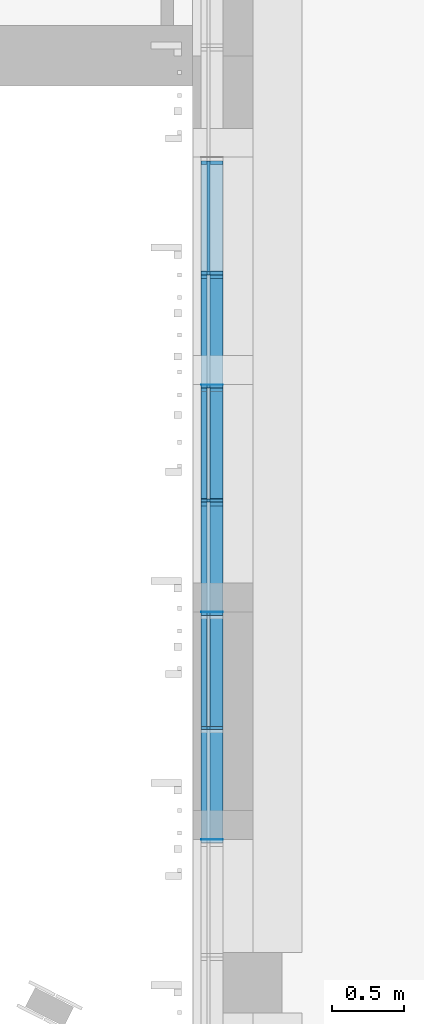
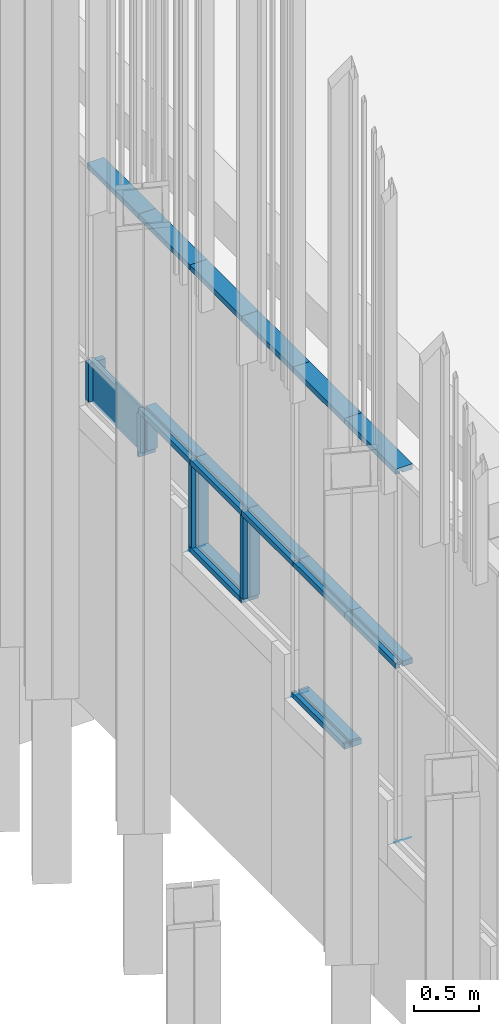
# One storey, part 60 of 390: 26 discrete accessories, 1 element without a shape of its own.
"""IFC2X3 building model written with IfcOpenShell, lengths in millimetres."""

from ifc_helpers import new_model, entity, si_unit, converted_unit, derived_unit, money_unit, direction, frame, origin_with_axes, place, context, subcontext, project, spatial, polyline, outline, extrude, clip, halfspace, material, material_list, type_object, element, aggregate, save


model = new_model("IFC2X3")

# Units and contexts
model_context = context("Model", 3, precision=1e-05, world=origin_with_axes(), true_north=direction((0.0, 1.0)))
body_context = subcontext(model_context, "Body", "Model", "MODEL_VIEW")
ifc_project = project(units=[si_unit("LENGTHUNIT", "METRE", prefix="MILLI"), si_unit("AREAUNIT", "SQUARE_METRE"), si_unit("VOLUMEUNIT", "CUBIC_METRE"), converted_unit("PLANEANGLEUNIT", "DEGREE", entity("IfcPlaneAngleMeasure", 0.0174532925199), si_unit("PLANEANGLEUNIT", "RADIAN"), dimensions=[0, 0, 0, 0, 0, 0, 0]), si_unit("SOLIDANGLEUNIT", "STERADIAN"), money_unit("EUR"), converted_unit("TIMEUNIT", "Year", entity("IfcTimeMeasure", 31556926.0), si_unit("TIMEUNIT", "SECOND"), dimensions=[0, 0, 1, 0, 0, 0, 0]), si_unit("MASSUNIT", "GRAM", prefix="KILO"), si_unit("THERMODYNAMICTEMPERATUREUNIT", "DEGREE_CELSIUS"), si_unit("LUMINOUSINTENSITYUNIT", "LUMEN"), si_unit("ENERGYUNIT", "JOULE", prefix="MEGA"), derived_unit("THERMALCONDUCTANCEUNIT", [(si_unit("POWERUNIT", "WATT"), 1), (si_unit("LENGTHUNIT", "METRE"), -1), (si_unit("THERMODYNAMICTEMPERATUREUNIT", "KELVIN"), -1)]), derived_unit("SPECIFICHEATCAPACITYUNIT", [(si_unit("ENERGYUNIT", "JOULE"), 1), (si_unit("MASSUNIT", "GRAM", prefix="KILO"), -1), (si_unit("THERMODYNAMICTEMPERATUREUNIT", "KELVIN"), -1)]), derived_unit("MASSDENSITYUNIT", [(si_unit("MASSUNIT", "GRAM", prefix="KILO"), 1), (si_unit("VOLUMEUNIT", "CUBIC_METRE"), -1)])], contexts=[model_context])

# Site, building, storey
site_placement = place(None, origin_with_axes())
site = spatial("IfcSite", under=ifc_project, at=site_placement, Name="Site", CompositionType="ELEMENT")
building_placement = place(site_placement, origin_with_axes())
building = spatial("IfcBuilding", under=site, at=building_placement, Name="Building", CompositionType="ELEMENT")
storey_placement = place(building_placement, origin_with_axes())
storey = spatial("IfcBuildingStorey", under=building, at=storey_placement, Name="1 korrus", CompositionType="ELEMENT", Elevation=0.0)

# Curtain wall, discrete accessories
curtain_wall_type = type_object("IfcCurtainWallType", Name="KLF-14", PredefinedType="NOTDEFINED")
curtain_wall_placement = place(storey_placement, frame((122599.999993, 59672.5295083, -0.000201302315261), z_axis=(0.0, 0.0, 1.0), x_axis=(1.0, 0.0, 0.0)))
curtain_wall = element("IfcCurtainWall", 1, at=curtain_wall_placement, inside=storey, type_object=curtain_wall_type, Name="Klaasfassaad")
ifc_material_1 = material(Name="Klaas")
discrete_accessory_type_1 = type_object("IfcDiscreteAccessoryType", Name="Distinct Panel 790 x 415 x 20")
discrete_accessory_1_placement = place(curtain_wall_placement, frame((3.87842646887e-07, -2278.98707772, 2324.00011705), z_axis=(0.0, 0.0, 1.0), x_axis=(1.70170488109e-10, -1.0, 0.0)))
discrete_accessory_1 = element("IfcDiscreteAccessory", 2, at=discrete_accessory_1_placement, type_object=discrete_accessory_type_1, material=ifc_material_1, Name="KLF-14 klaaspakett", context=body_context, shape_type="SweptSolid", body=[
    extrude(outline(polyline([(-469.457567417, -261.000015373), (320.542431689, -261.000015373), (320.542431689, 153.999964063), (-469.457567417, 154.000023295), (-469.457567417, -261.000015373)])), frame((0.0, -10.0, 0.0), z_axis=(0.0, 1.0, 0.0), x_axis=(1.0, 0.0, 0.0)), (0.0, 0.0, 1.0), 20.0),
])
ifc_material_2 = material(Name="Aluminium MUST")
ifc_material_list_1 = material_list([ifc_material_2, ifc_material_2])
discrete_accessory_type_2 = type_object("IfcDiscreteAccessoryType", Name="50 x 150")
discrete_accessory_2_placement = place(curtain_wall_placement, frame((7.10443259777e-07, -4174.5295103, 1740.00034017), z_axis=(0.0, 0.0, 1.0), x_axis=(1.70187388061e-10, -1.0, 0.0)))
discrete_accessory_2 = element("IfcDiscreteAccessory", 3, at=discrete_accessory_2_placement, type_object=discrete_accessory_type_2, material=ifc_material_list_1, Name="KLF-14 profiil", context=body_context, shape_type="SweptSolid", body=[
    extrude(outline(polyline([(100.000000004, -24.999999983), (99.9999999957, 25.000000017), (9.99999999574, 25.0000000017), (10.0000000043, -24.9999999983), (100.000000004, -24.999999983)])), frame((0.0, 0.0, 50.0000001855), z_axis=(0.0, 0.0, 1.0), x_axis=(1.70187388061e-10, 1.0, 0.0)), (0.0, 0.0, 1.0), 769.999788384),
    extrude(outline(polyline([(-50.0000000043, 24.9999999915), (-49.9999999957, -25.0000000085), (-9.99999999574, -25.0000000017), (-10.0000000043, 24.9999999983), (-50.0000000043, 24.9999999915)])), frame((0.0, 0.0, 49.9999990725), z_axis=(0.0, 0.0, 1.0), x_axis=(1.70187388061e-10, 1.0, 0.0)), (0.0, 0.0, 1.0), 769.999789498),
])
ifc_material_list_2 = material_list([ifc_material_2, ifc_material_2, ifc_material_2])
discrete_accessory_3_placement = place(curtain_wall_placement, frame((9.78474190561e-07, -5749.5295103, 4424.99986231), z_axis=(1.70186299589e-10, -1.0, 0.0), x_axis=(0.0, 0.0, -1.0)))
discrete_accessory_3 = element("IfcDiscreteAccessory", 4, at=discrete_accessory_3_placement, type_object=discrete_accessory_type_2, material=ifc_material_list_2, Name="KLF-14 profiil", context=body_context, shape_type="SweptSolid", body=[
    extrude(outline(polyline([(-9.99999986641, 25.0), (-9.99999986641, 0.0), (10.0000001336, 0.0), (10.0000001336, 25.0), (-9.99999986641, 25.0)])), frame((0.0, 0.0, -1.69109171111e-09), z_axis=(0.0, 0.0, 1.0), x_axis=(0.0, -1.0, 0.0)), (0.0, 0.0, 1.0), 785.000000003),
    extrude(outline(polyline([(-99.9999998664, 50.0), (-99.9999998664, 0.0), (-9.99999986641, 0.0), (-9.99999986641, 50.0), (-99.9999998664, 50.0)])), frame((0.0, 0.0, 1.70530256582e-09), z_axis=(0.0, 0.0, 1.0), x_axis=(0.0, -1.0, 0.0)), (0.0, 0.0, 1.0), 785.000000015),
    extrude(outline(polyline([(50.0000001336, 0.0), (50.0000001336, 50.0), (10.0000001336, 50.0), (10.0000001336, 0.0), (50.0000001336, 0.0)])), frame((0.0, 0.0, -8.49809111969e-09), z_axis=(0.0, 0.0, 1.0), x_axis=(0.0, -1.0, 0.0)), (0.0, 0.0, 1.0), 785.000000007),
])
discrete_accessory_4_placement = place(curtain_wall_placement, frame((5.75994363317e-07, -3384.5295103, 1740.00011796), z_axis=(0.0, 0.0, 1.0), x_axis=(1.70187388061e-10, -1.0, 0.0)))
discrete_accessory_4 = element("IfcDiscreteAccessory", 5, at=discrete_accessory_4_placement, type_object=discrete_accessory_type_2, material=ifc_material_list_1, Name="KLF-14 profiil", context=body_context, shape_type="SweptSolid", body=[
    extrude(outline(polyline([(100.000000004, -24.999999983), (99.9999999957, 25.000000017), (9.99999999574, 25.0000000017), (10.0000000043, -24.9999999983), (100.000000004, -24.999999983)])), frame((0.0, 0.0, 50.0), z_axis=(0.0, 0.0, 1.0), x_axis=(1.70187388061e-10, 1.0, 0.0)), (0.0, 0.0, 1.0), 770.000010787),
    extrude(outline(polyline([(-50.0000000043, 24.9999999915), (-49.9999999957, -25.0000000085), (-9.99999999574, -25.0000000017), (-10.0000000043, 24.9999999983), (-50.0000000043, 24.9999999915)])), frame((0.0, 0.0, 50.0), z_axis=(0.0, 0.0, 1.0), x_axis=(1.70187388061e-10, 1.0, 0.0)), (0.0, 0.0, 1.0), 770.000010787),
])
discrete_accessory_5_placement = place(curtain_wall_placement, frame((4.42398118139e-07, -2599.5295103, 2150.00014739), z_axis=(0.0, 0.0, 1.0), x_axis=(1.70178393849e-10, -1.0, 0.0)))
discrete_accessory_5 = element("IfcDiscreteAccessory", 6, at=discrete_accessory_5_placement, type_object=discrete_accessory_type_2, material=ifc_material_list_1, Name="KLF-14 profiil", context=body_context, shape_type="SweptSolid", body=[
    extrude(outline(polyline([(100.000000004, -24.999999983), (99.9999999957, 25.000000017), (9.99999999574, 25.0000000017), (10.0000000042, -24.9999999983), (100.000000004, -24.999999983)])), frame((0.0, 0.0, 50.0000002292), z_axis=(0.0, 0.0, 1.0), x_axis=(1.70178393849e-10, 1.0, 0.0)), (0.0, 0.0, 1.0), 359.99998112),
    extrude(outline(polyline([(-50.0000000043, 24.9999999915), (-49.9999999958, -25.0000000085), (-9.99999999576, -25.0000000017), (-10.0000000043, 24.9999999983), (-50.0000000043, 24.9999999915)])), frame((0.0, 0.0, 49.9999988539), z_axis=(0.0, 0.0, 1.0), x_axis=(1.70178393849e-10, 1.0, 0.0)), (0.0, 0.0, 1.0), 359.999982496),
])
discrete_accessory_6_placement = place(curtain_wall_placement, frame((3.07963432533e-07, -1809.5295103, 2150.00009018), z_axis=(0.0, 0.0, 1.0), x_axis=(1.70178393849e-10, -1.0, 0.0)))
discrete_accessory_6 = element("IfcDiscreteAccessory", 7, at=discrete_accessory_6_placement, type_object=discrete_accessory_type_2, material=ifc_material_list_1, Name="KLF-14 profiil", context=body_context, shape_type="SweptSolid", body=[
    extrude(outline(polyline([(100.000000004, -24.999999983), (99.9999999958, 25.000000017), (9.99999999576, 25.0000000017), (10.0000000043, -24.9999999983), (100.000000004, -24.999999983)])), frame((0.0, 0.0, 50.0), z_axis=(0.0, 0.0, 1.0), x_axis=(1.70178393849e-10, 1.0, 0.0)), (0.0, 0.0, 1.0), 360.000038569),
    extrude(outline(polyline([(-50.0000000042, 24.9999999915), (-49.9999999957, -25.0000000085), (-9.99999999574, -25.0000000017), (-10.0000000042, 24.9999999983), (-50.0000000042, 24.9999999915)])), frame((0.0, 0.0, 50.0), z_axis=(0.0, 0.0, 1.0), x_axis=(1.70178393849e-10, 1.0, 0.0)), (0.0, 0.0, 1.0), 360.000038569),
])
discrete_accessory_7_placement = place(curtain_wall_placement, frame((8.44039504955e-07, -4959.5295103, 4424.99986231), z_axis=(1.70170488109e-10, -1.0, 0.0), x_axis=(0.0, 0.0, -1.0)))
discrete_accessory_7 = element("IfcDiscreteAccessory", 8, at=discrete_accessory_7_placement, type_object=discrete_accessory_type_2, material=ifc_material_list_2, Name="KLF-14 profiil", context=body_context, shape_type="SweptSolid", body=[
    extrude(outline(polyline([(-9.99999986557, 25.0), (-9.99999986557, 0.0), (10.0000001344, 0.0), (10.0000001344, 25.0), (-9.99999986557, 25.0)])), frame((0.0, 0.0, -1.69819713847e-09), z_axis=(0.0, 0.0, 1.0), x_axis=(0.0, -1.0, 0.0)), (0.0, 0.0, 1.0), 790.000000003),
    extrude(outline(polyline([(-99.9999998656, 50.0), (-99.9999998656, 0.0), (-9.99999986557, 0.0), (-9.99999986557, 50.0), (-99.9999998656, 50.0)])), frame((0.0, 0.0, 1.71240799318e-09), z_axis=(0.0, 0.0, 1.0), x_axis=(0.0, -1.0, 0.0)), (0.0, 0.0, 1.0), 790.000000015),
    extrude(outline(polyline([(50.0000001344, 0.0), (50.0000001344, 50.0), (10.0000001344, 50.0), (10.0000001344, 0.0), (50.0000001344, 0.0)])), frame((0.0, 0.0, -8.50519654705e-09), z_axis=(0.0, 0.0, 1.0), x_axis=(0.0, -1.0, 0.0)), (0.0, 0.0, 1.0), 790.000000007),
])
discrete_accessory_8_placement = place(curtain_wall_placement, frame((3.07963432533e-07, -1809.5295103, 4424.99986231), z_axis=(1.70170488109e-10, -1.0, 0.0), x_axis=(0.0, 0.0, -1.0)))
discrete_accessory_8 = element("IfcDiscreteAccessory", 9, at=discrete_accessory_8_placement, type_object=discrete_accessory_type_2, material=ifc_material_list_2, Name="KLF-14 profiil", context=body_context, shape_type="SweptSolid", body=[
    extrude(outline(polyline([(-9.99999986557, 25.0), (-9.99999986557, 0.0), (10.0000001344, 0.0), (10.0000001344, 25.0), (-9.99999986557, 25.0)])), frame((0.0, 0.0, -1.69819713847e-09), z_axis=(0.0, 0.0, 1.0), x_axis=(0.0, -1.0, 0.0)), (0.0, 0.0, 1.0), 790.000000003),
    extrude(outline(polyline([(-99.9999998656, 50.0), (-99.9999998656, 0.0), (-9.99999986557, 0.0), (-9.99999986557, 50.0), (-99.9999998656, 50.0)])), frame((0.0, 0.0, 1.71240799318e-09), z_axis=(0.0, 0.0, 1.0), x_axis=(0.0, -1.0, 0.0)), (0.0, 0.0, 1.0), 790.000000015),
    extrude(outline(polyline([(50.0000001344, 0.0), (50.0000001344, 50.0), (10.0000001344, 50.0), (10.0000001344, 0.0), (50.0000001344, 0.0)])), frame((0.0, 0.0, -8.50519654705e-09), z_axis=(0.0, 0.0, 1.0), x_axis=(0.0, -1.0, 0.0)), (0.0, 0.0, 1.0), 790.000000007),
])
discrete_accessory_9_placement = place(curtain_wall_placement, frame((4.42398118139e-07, -2599.5295103, 4424.99986231), z_axis=(1.70186299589e-10, -1.0, 0.0), x_axis=(0.0, 0.0, -1.0)))
discrete_accessory_9 = element("IfcDiscreteAccessory", 10, at=discrete_accessory_9_placement, type_object=discrete_accessory_type_2, material=ifc_material_list_2, Name="KLF-14 profiil", context=body_context, shape_type="SweptSolid", body=[
    extrude(outline(polyline([(-9.99999986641, 25.0), (-9.99999986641, 0.0), (10.0000001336, 0.0), (10.0000001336, 25.0), (-9.99999986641, 25.0)])), frame((0.0, 0.0, -1.69109171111e-09), z_axis=(0.0, 0.0, 1.0), x_axis=(0.0, -1.0, 0.0)), (0.0, 0.0, 1.0), 785.000000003),
    extrude(outline(polyline([(-99.9999998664, 50.0), (-99.9999998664, 0.0), (-9.99999986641, 0.0), (-9.99999986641, 50.0), (-99.9999998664, 50.0)])), frame((0.0, 0.0, 1.70530256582e-09), z_axis=(0.0, 0.0, 1.0), x_axis=(0.0, -1.0, 0.0)), (0.0, 0.0, 1.0), 785.000000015),
    extrude(outline(polyline([(50.0000001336, 0.0), (50.0000001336, 50.0), (10.0000001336, 50.0), (10.0000001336, 0.0), (50.0000001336, 0.0)])), frame((0.0, 0.0, -8.49809111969e-09), z_axis=(0.0, 0.0, 1.0), x_axis=(0.0, -1.0, 0.0)), (0.0, 0.0, 1.0), 785.000000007),
])
discrete_accessory_10_placement = place(curtain_wall_placement, frame((9.74608838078e-07, -5726.8173106, 1330.00014574), z_axis=(-1.70169958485e-10, 1.0, 0.0), x_axis=(0.0, 0.0, 1.0)))
discrete_accessory_10 = element("IfcDiscreteAccessory", 11, at=discrete_accessory_10_placement, type_object=discrete_accessory_type_2, material=ifc_material_list_2, Name="KLF-14 profiil", context=body_context, shape_type="SweptSolid", body=[
    extrude(outline(polyline([(10.0000001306, -25.0), (10.0000001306, 0.0), (-9.99999986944, 0.0), (-9.99999986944, -25.0), (10.0000001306, -25.0)])), frame((0.0, 0.0, -0.000151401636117), z_axis=(0.0, 0.0, 1.0), x_axis=(0.0, 1.0, 0.0)), (0.0, 0.0, 1.0), 767.287951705),
    extrude(outline(polyline([(100.000000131, -50.0), (100.000000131, 0.0), (10.0000001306, 0.0), (10.0000001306, -50.0), (100.000000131, -50.0)])), frame((0.0, 0.0, -0.000151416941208), z_axis=(0.0, 0.0, 1.0), x_axis=(0.0, 1.0, 0.0)), (0.0, 0.0, 1.0), 767.287951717),
    extrude(outline(polyline([(-49.9999998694, 0.0), (-49.9999998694, -50.0), (-9.99999986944, -50.0), (-9.99999986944, 0.0), (-49.9999998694, 0.0)])), frame((0.0, 0.0, -0.000151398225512), z_axis=(0.0, 0.0, 1.0), x_axis=(0.0, 1.0, 0.0)), (0.0, 0.0, 1.0), 767.287951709),
])
discrete_accessory_11_placement = place(curtain_wall_placement, frame((7.10443259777e-07, -4174.5295103, 4424.99986231), z_axis=(1.70186299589e-10, -1.0, 0.0), x_axis=(0.0, 0.0, -1.0)))
discrete_accessory_11 = element("IfcDiscreteAccessory", 12, at=discrete_accessory_11_placement, type_object=discrete_accessory_type_2, material=ifc_material_list_2, Name="KLF-14 profiil", context=body_context, shape_type="SweptSolid", body=[
    extrude(outline(polyline([(-9.99999986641, 25.0), (-9.99999986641, 0.0), (10.0000001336, 0.0), (10.0000001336, 25.0), (-9.99999986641, 25.0)])), frame((0.0, 0.0, -1.69109171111e-09), z_axis=(0.0, 0.0, 1.0), x_axis=(0.0, -1.0, 0.0)), (0.0, 0.0, 1.0), 785.000000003),
    extrude(outline(polyline([(-99.9999998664, 50.0), (-99.9999998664, 0.0), (-9.99999986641, 0.0), (-9.99999986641, 50.0), (-99.9999998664, 50.0)])), frame((0.0, 0.0, 1.70530256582e-09), z_axis=(0.0, 0.0, 1.0), x_axis=(0.0, -1.0, 0.0)), (0.0, 0.0, 1.0), 785.000000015),
    extrude(outline(polyline([(50.0000001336, 0.0), (50.0000001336, 50.0), (10.0000001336, 50.0), (10.0000001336, 0.0), (50.0000001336, 0.0)])), frame((0.0, 0.0, -8.49809111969e-09), z_axis=(0.0, 0.0, 1.0), x_axis=(0.0, -1.0, 0.0)), (0.0, 0.0, 1.0), 785.000000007),
])
discrete_accessory_12_placement = place(curtain_wall_placement, frame((4.42398118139e-07, -2599.5295103, 2150.00014739), z_axis=(-1.70188656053e-10, 0.999999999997, -2.51933153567e-06), x_axis=(0.0, 2.51933153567e-06, 0.999999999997)))
discrete_accessory_12 = element("IfcDiscreteAccessory", 13, at=discrete_accessory_12_placement, type_object=discrete_accessory_type_2, material=ifc_material_list_2, Name="KLF-14 profiil", context=body_context, shape_type="SweptSolid", body=[
    extrude(outline(polyline([(10.0000000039, -25.0000572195), (10.0000000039, -5.72196277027e-05), (-9.99999999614, -5.72196277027e-05), (-9.99999999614, -25.0000572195), (10.0000000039, -25.0000572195)])), frame((0.0, 0.0, -0.000126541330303), z_axis=(0.0, 0.0, 1.0), x_axis=(0.0, 1.0, 0.0)), (0.0, 0.0, 1.0), 22.7123524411),
    extrude(outline(polyline([(100.000000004, -50.0000572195), (100.000000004, -5.72196277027e-05), (10.0000000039, -5.72196277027e-05), (10.0000000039, -50.0000572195), (100.000000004, -50.0000572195)])), frame((0.0, 0.0, -0.000189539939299), z_axis=(0.0, 0.0, 1.0), x_axis=(0.0, 1.0, 0.0)), (0.0, 0.0, 1.0), 22.7124154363),
    extrude(outline(polyline([(-49.9999999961, -5.72196277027e-05), (-49.9999999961, -50.0000572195), (-9.99999999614, -50.0000572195), (-9.99999999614, -5.72196277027e-05), (-49.9999999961, -5.72196277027e-05)])), frame((0.0, 0.0, -0.000189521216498), z_axis=(0.0, 0.0, 1.0), x_axis=(0.0, 1.0, 0.0)), (0.0, 0.0, 1.0), 22.7124154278),
])
discrete_accessory_13_placement = place(curtain_wall_placement, frame((1.11207043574e-06, -6534.5295103, 2585.00012874), z_axis=(-1.70186299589e-10, 1.0, 0.0), x_axis=(0.0, 0.0, 1.0)))
discrete_accessory_13 = element("IfcDiscreteAccessory", 14, at=discrete_accessory_13_placement, type_object=discrete_accessory_type_2, material=ifc_material_list_1, Name="KLF-14 profiil", context=body_context, shape_type="SweptSolid", body=[
    extrude(outline(polyline([(100.000000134, -25.0), (100.000000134, 25.0), (10.0000001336, 25.0), (10.0000001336, -25.0), (100.000000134, -25.0)])), frame((0.0, 0.0, -1.70174985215e-08), z_axis=(0.0, 0.0, 1.0), x_axis=(0.0, 1.0, 0.0)), (0.0, 0.0, 1.0), 785.000000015),
    extrude(outline(polyline([(-49.9999998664, 25.0), (-49.9999998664, -25.0), (-9.99999986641, -25.0), (-9.99999986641, 25.0), (-49.9999998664, 25.0)])), frame((0.0, 0.0, 1.69109171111e-09), z_axis=(0.0, 0.0, 1.0), x_axis=(0.0, 1.0, 0.0)), (0.0, 0.0, 1.0), 785.000000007),
])
discrete_accessory_14_placement = place(curtain_wall_placement, frame((9.78474190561e-07, -5749.5295103, 2585.00012874), z_axis=(-1.70170488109e-10, 1.0, 0.0), x_axis=(0.0, 0.0, 1.0)))
discrete_accessory_14 = element("IfcDiscreteAccessory", 15, at=discrete_accessory_14_placement, type_object=discrete_accessory_type_2, material=ifc_material_list_1, Name="KLF-14 profiil", context=body_context, shape_type="SweptSolid", body=[
    extrude(outline(polyline([(100.000000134, -25.0), (100.000000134, 25.0), (10.0000001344, 25.0), (10.0000001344, -25.0), (100.000000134, -25.0)])), frame((0.0, 0.0, -1.70174985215e-08), z_axis=(0.0, 0.0, 1.0), x_axis=(0.0, 1.0, 0.0)), (0.0, 0.0, 1.0), 790.000000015),
    extrude(outline(polyline([(-49.9999998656, 25.0), (-49.9999998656, -25.0), (-9.99999986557, -25.0), (-9.99999986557, 25.0), (-49.9999998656, 25.0)])), frame((0.0, 0.0, 1.69819713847e-09), z_axis=(0.0, 0.0, 1.0), x_axis=(0.0, 1.0, 0.0)), (0.0, 0.0, 1.0), 790.000000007),
])
discrete_accessory_15_placement = place(curtain_wall_placement, frame((8.44039504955e-07, -4959.5295103, 2585.00012874), z_axis=(-1.70186299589e-10, 1.0, 0.0), x_axis=(0.0, 0.0, 1.0)))
discrete_accessory_15 = element("IfcDiscreteAccessory", 16, at=discrete_accessory_15_placement, type_object=discrete_accessory_type_2, material=ifc_material_list_1, Name="KLF-14 profiil", context=body_context, shape_type="SweptSolid", body=[
    extrude(outline(polyline([(100.000000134, -25.0), (100.000000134, 25.0), (10.0000001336, 25.0), (10.0000001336, -25.0), (100.000000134, -25.0)])), frame((0.0, 0.0, -1.70174985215e-08), z_axis=(0.0, 0.0, 1.0), x_axis=(0.0, 1.0, 0.0)), (0.0, 0.0, 1.0), 785.000000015),
    extrude(outline(polyline([(-49.9999998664, 25.0), (-49.9999998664, -25.0), (-9.99999986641, -25.0), (-9.99999986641, 25.0), (-49.9999998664, 25.0)])), frame((0.0, 0.0, 1.69109171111e-09), z_axis=(0.0, 0.0, 1.0), x_axis=(0.0, 1.0, 0.0)), (0.0, 0.0, 1.0), 785.000000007),
])
discrete_accessory_16_placement = place(curtain_wall_placement, frame((7.10443259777e-07, -4174.5295103, 2585.00012874), z_axis=(-1.70188476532e-10, 1.0, 0.0), x_axis=(0.0, 0.0, 1.0)))
discrete_accessory_16 = element("IfcDiscreteAccessory", 17, at=discrete_accessory_16_placement, type_object=discrete_accessory_type_2, material=ifc_material_list_1, Name="KLF-14 profiil", context=body_context, shape_type="SweptSolid", body=[
    extrude(outline(polyline([(100.000000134, -25.0), (100.000000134, 25.0), (10.0000001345, 25.0), (10.0000001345, -25.0), (100.000000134, -25.0)])), frame((0.0, 0.0, -1.70174985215e-08), z_axis=(0.0, 0.0, 1.0), x_axis=(0.0, 1.0, 0.0)), (0.0, 0.0, 1.0), 790.000000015),
    extrude(outline(polyline([(-49.9999998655, 25.0), (-49.9999998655, -25.0), (-9.99999986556, -25.0), (-9.99999986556, 25.0), (-49.9999998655, 25.0)])), frame((0.0, 0.0, 1.70530256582e-09), z_axis=(0.0, 0.0, 1.0), x_axis=(0.0, 1.0, 0.0)), (0.0, 0.0, 1.0), 790.000000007),
])
discrete_accessory_17_placement = place(curtain_wall_placement, frame((5.75994363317e-07, -3384.5295103, 2585.00012874), z_axis=(-1.70186299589e-10, 1.0, 0.0), x_axis=(0.0, 0.0, 1.0)))
discrete_accessory_17 = element("IfcDiscreteAccessory", 18, at=discrete_accessory_17_placement, type_object=discrete_accessory_type_2, material=ifc_material_list_1, Name="KLF-14 profiil", context=body_context, shape_type="SweptSolid", body=[
    extrude(outline(polyline([(100.000000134, -25.0), (100.000000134, 25.0), (10.0000001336, 25.0), (10.0000001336, -25.0), (100.000000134, -25.0)])), frame((0.0, 0.0, -1.70174985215e-08), z_axis=(0.0, 0.0, 1.0), x_axis=(0.0, 1.0, 0.0)), (0.0, 0.0, 1.0), 785.000000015),
    extrude(outline(polyline([(-49.9999998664, 25.0), (-49.9999998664, -25.0), (-9.99999986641, -25.0), (-9.99999986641, 25.0), (-49.9999998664, 25.0)])), frame((0.0, 0.0, 1.69109171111e-09), z_axis=(0.0, 0.0, 1.0), x_axis=(0.0, 1.0, 0.0)), (0.0, 0.0, 1.0), 785.000000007),
])
discrete_accessory_18_placement = place(curtain_wall_placement, frame((5.75994363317e-07, -3384.5295103, 4424.99986231), z_axis=(1.70188476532e-10, -1.0, 0.0), x_axis=(0.0, 0.0, -1.0)))
discrete_accessory_18 = element("IfcDiscreteAccessory", 19, at=discrete_accessory_18_placement, type_object=discrete_accessory_type_2, material=ifc_material_list_2, Name="KLF-14 profiil", context=body_context, shape_type="SweptSolid", body=[
    extrude(outline(polyline([(-9.99999986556, 25.0), (-9.99999986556, 0.0), (10.0000001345, 0.0), (10.0000001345, 25.0), (-9.99999986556, 25.0)])), frame((0.0, 0.0, -1.70530256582e-09), z_axis=(0.0, 0.0, 1.0), x_axis=(0.0, -1.0, 0.0)), (0.0, 0.0, 1.0), 790.000000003),
    extrude(outline(polyline([(-99.9999998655, 50.0), (-99.9999998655, 0.0), (-9.99999986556, 0.0), (-9.99999986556, 50.0), (-99.9999998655, 50.0)])), frame((0.0, 0.0, 1.69109171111e-09), z_axis=(0.0, 0.0, 1.0), x_axis=(0.0, -1.0, 0.0)), (0.0, 0.0, 1.0), 790.000000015),
    extrude(outline(polyline([(50.0000001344, 0.0), (50.0000001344, 50.0), (10.0000001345, 50.0), (10.0000001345, 0.0), (50.0000001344, 0.0)])), frame((0.0, 0.0, -8.51230197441e-09), z_axis=(0.0, 0.0, 1.0), x_axis=(0.0, -1.0, 0.0)), (0.0, 0.0, 1.0), 790.000000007),
])
discrete_accessory_19_placement = place(curtain_wall_placement, frame((5.75994363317e-07, -3384.5295103, 1740.00011796), z_axis=(-1.70013647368e-10, 1.0, 0.0), x_axis=(0.0, 0.0, 1.0)))
discrete_accessory_19 = element("IfcDiscreteAccessory", 20, at=discrete_accessory_19_placement, type_object=discrete_accessory_type_2, material=ifc_material_list_2, Name="KLF-14 profiil", context=body_context, shape_type="SweptSolid", body=[
    extrude(outline(polyline([(10.0000000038, -25.0), (10.0000000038, 0.0), (-9.99999999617, 0.0), (-9.99999999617, -25.0), (10.0000000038, -25.0)])), frame((0.0, 0.0, -1.71240799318e-09), z_axis=(0.0, 0.0, 1.0), x_axis=(0.0, 1.0, 0.0)), (0.0, 0.0, 1.0), 22.5709704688),
    extrude(outline(polyline([(100.000000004, -50.0), (100.000000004, 0.0), (10.0000000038, 0.0), (10.0000000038, -50.0), (100.000000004, -50.0)])), frame((0.0, 0.0, -1.70174985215e-08), z_axis=(0.0, 0.0, 1.0), x_axis=(0.0, 1.0, 0.0)), (0.0, 0.0, 1.0), 22.5709704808),
    extrude(outline(polyline([(-49.9999999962, 0.0), (-49.9999999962, -50.0), (-9.99999999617, -50.0), (-9.99999999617, 0.0), (-49.9999999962, 0.0)])), frame((0.0, 0.0, 1.68398628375e-09), z_axis=(0.0, 0.0, 1.0), x_axis=(0.0, 1.0, 0.0)), (0.0, 0.0, 1.0), 22.5709704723),
])
discrete_accessory_20_placement = place(curtain_wall_placement, frame((7.10443259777e-07, -4174.5295103, 1740.00034017), z_axis=(-1.70188518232e-10, 0.999999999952, -9.78405027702e-06), x_axis=(0.0, 9.78405027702e-06, 0.999999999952)))
discrete_accessory_20 = element("IfcDiscreteAccessory", 21, at=discrete_accessory_20_placement, type_object=discrete_accessory_type_2, material=ifc_material_list_2, Name="KLF-14 profiil", context=body_context, shape_type="SweptSolid", body=[
    extrude(outline(polyline([(10.0000000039, -25.0002222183), (10.0000000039, -0.00022221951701), (-9.99999999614, -0.00022221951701), (-9.99999999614, -25.0002222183), (10.0000000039, -25.0002222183)])), frame((0.0, 0.0, -0.000489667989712), z_axis=(0.0, 0.0, 1.0), x_axis=(0.0, 1.0, 0.0)), (0.0, 0.0, 1.0), 22.7129155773),
    extrude(outline(polyline([(100.000000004, -50.0002222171), (100.000000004, -0.000222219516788), (10.0000000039, -0.00022221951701), (10.0000000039, -50.0002222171), (100.000000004, -50.0002222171)])), frame((0.0, 0.0, -0.000734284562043), z_axis=(0.0, 0.0, 1.0), x_axis=(0.0, 1.0, 0.0)), (0.0, 0.0, 1.0), 22.7131601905),
    extrude(outline(polyline([(-49.9999999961, -0.000222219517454), (-49.9999999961, -50.0002222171), (-9.99999999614, -50.0002222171), (-9.99999999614, -0.00022221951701), (-49.9999999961, -0.000222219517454)])), frame((0.0, 0.0, -0.000734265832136), z_axis=(0.0, 0.0, 1.0), x_axis=(0.0, 1.0, 0.0)), (0.0, 0.0, 1.0), 22.713160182),
])
discrete_accessory_21_placement = place(curtain_wall_placement, frame((5.72157432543e-07, -3361.96114104, 1740.00011796), z_axis=(-1.70518764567e-10, 0.999999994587, 0.000104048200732), x_axis=(0.0, -0.000104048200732, 0.999999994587)))
discrete_accessory_21 = element("IfcDiscreteAccessory", 22, at=discrete_accessory_21_placement, type_object=discrete_accessory_type_2, material=ifc_material_list_2, Name="KLF-14 profiil", context=body_context, shape_type="Clipping", body=[
    clip(extrude(outline(polyline([(-10.0, -2.00294438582), (10.0, -2.00294438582), (10.0000000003, 0.0), (-9.99999999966, 0.0), (-10.0, -2.00294438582)])), frame((0.0, 0.0, -0.0026012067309), z_axis=(0.0, 0.0, 1.0), x_axis=(0.0, 1.0, 0.0)), (0.0, 0.0, 1.0), 2.00273599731), halfspace(frame((1.00006738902, 1.70537287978e-10, 1.00017144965), z_axis=(-0.707069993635, -1.20573673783e-10, -0.707143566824), x_axis=(0.0, 1.0, -1.70508054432e-10)), True)),
    clip(extrude(outline(polyline([(10.0, -2.00294438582), (100.0, -2.00294438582), (100.0, 0.0), (10.0000000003, 0.0), (10.0, -2.00294438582)])), frame((0.0, 0.0, -0.00260122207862), z_axis=(0.0, 0.0, 1.0), x_axis=(0.0, 1.0, 0.0)), (0.0, 0.0, 1.0), 2.00273600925), halfspace(frame((1.00006738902, 1.70542222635e-10, 1.00017144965), z_axis=(-0.707069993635, -1.20577162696e-10, -0.707143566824), x_axis=(0.0, 1.0, -1.70512988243e-10)), True)),
    clip(extrude(outline(polyline([(-10.0, -2.00294438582), (-9.99999999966, 0.0), (-49.9999999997, 0.0), (-50.0, -2.00294438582), (-10.0, -2.00294438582)])), frame((0.0, 0.0, -0.0026012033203), z_axis=(0.0, 0.0, 1.0), x_axis=(0.0, 1.0, 0.0)), (0.0, 0.0, 1.0), 2.00273600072), halfspace(frame((1.00006738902, 1.70542841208e-10, 1.00017144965), z_axis=(-0.707069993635, -1.20577600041e-10, -0.707143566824), x_axis=(0.0, 1.0, -1.7051360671e-10)), True)),
])
discrete_accessory_22_placement = place(curtain_wall_placement, frame((7.06577907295e-07, -4151.81732899, 1740.00011796), z_axis=(-1.70188475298e-10, 1.0, 0.0), x_axis=(0.0, 0.0, 1.0)))
discrete_accessory_22 = element("IfcDiscreteAccessory", 23, at=discrete_accessory_22_placement, type_object=discrete_accessory_type_2, material=ifc_material_list_2, Name="KLF-14 profiil", context=body_context, shape_type="SweptSolid", body=[
    extrude(outline(polyline([(10.0000001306, -25.0), (10.0000001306, 0.0), (-9.99999986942, 0.0), (-9.99999986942, -25.0), (10.0000001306, -25.0)])), frame((0.0, 0.0, -0.000244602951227), z_axis=(0.0, 0.0, 1.0), x_axis=(0.0, 1.0, 0.0)), (0.0, 0.0, 1.0), 767.288063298),
    extrude(outline(polyline([(100.000000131, -50.0), (100.000000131, 0.0), (10.0000001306, 0.0), (10.0000001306, -50.0), (100.000000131, -50.0)])), frame((0.0, 0.0, -0.000244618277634), z_axis=(0.0, 0.0, 1.0), x_axis=(0.0, 1.0, 0.0)), (0.0, 0.0, 1.0), 767.28806331),
    extrude(outline(polyline([(-49.9999998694, 0.0), (-49.9999998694, -50.0), (-9.99999986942, -50.0), (-9.99999986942, 0.0), (-49.9999998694, 0.0)])), frame((0.0, 0.0, -0.000244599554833), z_axis=(0.0, 0.0, 1.0), x_axis=(0.0, 1.0, 0.0)), (0.0, 0.0, 1.0), 767.288063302),
])
discrete_accessory_23_placement = place(curtain_wall_placement, frame((8.44039504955e-07, -4959.5295103, 1330.00014574), z_axis=(-1.70014552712e-10, 1.0, 0.0), x_axis=(0.0, 0.0, 1.0)))
discrete_accessory_23 = element("IfcDiscreteAccessory", 24, at=discrete_accessory_23_placement, type_object=discrete_accessory_type_2, material=ifc_material_list_2, Name="KLF-14 profiil", context=body_context, shape_type="SweptSolid", body=[
    extrude(outline(polyline([(10.0000000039, -25.0), (10.0000000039, 0.0), (-9.99999999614, 0.0), (-9.99999999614, -25.0), (10.0000000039, -25.0)])), frame((0.0, 0.0, -1.71240799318e-09), z_axis=(0.0, 0.0, 1.0), x_axis=(0.0, 1.0, 0.0)), (0.0, 0.0, 1.0), 22.5701030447),
    extrude(outline(polyline([(100.000000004, -50.0), (100.000000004, 0.0), (10.0000000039, 0.0), (10.0000000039, -50.0), (100.000000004, -50.0)])), frame((0.0, 0.0, -1.70174985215e-08), z_axis=(0.0, 0.0, 1.0), x_axis=(0.0, 1.0, 0.0)), (0.0, 0.0, 1.0), 22.5701030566),
    extrude(outline(polyline([(-49.9999999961, 0.0), (-49.9999999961, -50.0), (-9.99999999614, -50.0), (-9.99999999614, 0.0), (-49.9999999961, 0.0)])), frame((0.0, 0.0, 1.68398628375e-09), z_axis=(0.0, 0.0, 1.0), x_axis=(0.0, 1.0, 0.0)), (0.0, 0.0, 1.0), 22.5701030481),
])
discrete_accessory_24_placement = place(curtain_wall_placement, frame((9.78474190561e-07, -5749.5295103, 1330.00000819), z_axis=(-1.70188380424e-10, 0.999999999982, 6.05599684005e-06), x_axis=(0.0, -6.05599684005e-06, 0.999999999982)))
discrete_accessory_24 = element("IfcDiscreteAccessory", 25, at=discrete_accessory_24_placement, type_object=discrete_accessory_type_2, material=ifc_material_list_2, Name="KLF-14 profiil", context=body_context, shape_type="SweptSolid", body=[
    extrude(outline(polyline([(10.0000000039, -24.9998624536), (10.0000000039, 0.000137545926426), (-9.99999999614, 0.000137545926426), (-9.99999999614, -24.9998624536), (10.0000000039, -24.9998624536)])), frame((0.0, 0.0, -0.000151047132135), z_axis=(0.0, 0.0, 1.0), x_axis=(0.0, 1.0, 0.0)), (0.0, 0.0, 1.0), 22.7126535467),
    extrude(outline(polyline([(100.000000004, -49.9998624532), (100.000000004, 0.000137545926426), (10.0000000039, 0.000137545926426), (10.0000000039, -49.9998624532), (100.000000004, -49.9998624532)])), frame((0.0, 0.0, -0.000151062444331), z_axis=(0.0, 0.0, 1.0), x_axis=(0.0, 1.0, 0.0)), (0.0, 0.0, 1.0), 22.7128049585),
    extrude(outline(polyline([(-49.9999999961, 0.000137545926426), (-49.9999999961, -49.9998624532), (-9.99999999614, -49.9998624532), (-9.99999999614, 0.000137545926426), (-49.9999999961, 0.000137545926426)])), frame((0.0, 0.0, -0.000151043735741), z_axis=(0.0, 0.0, 1.0), x_axis=(0.0, 1.0, 0.0)), (0.0, 0.0, 1.0), 22.71280495),
])
discrete_accessory_25_placement = place(curtain_wall_placement, frame((8.40202574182e-07, -4936.96126122, 1330.00014574), z_axis=(-1.70517676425e-10, 0.99999999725, -7.41583854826e-05), x_axis=(0.0, 7.41583854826e-05, 0.99999999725)))
discrete_accessory_25 = element("IfcDiscreteAccessory", 26, at=discrete_accessory_25_placement, type_object=discrete_accessory_type_2, material=ifc_material_list_2, Name="KLF-14 profiil", context=body_context, shape_type="Clipping", body=[
    clip(extrude(outline(polyline([(-10.0, -2.00185305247), (10.0, -2.00185305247), (10.0000000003, 0.0), (-9.99999999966, 0.0), (-10.0, -2.00185305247)])), frame((0.0, 0.0, -0.00185396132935), z_axis=(0.0, 0.0, 1.0), x_axis=(0.0, 1.0, 0.0)), (0.0, 0.0, 1.0), 2.00200151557), halfspace(frame((1.00007377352, 1.70541293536e-10, 0.999999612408), z_axis=(-0.707132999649, -1.20586480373e-10, -0.707080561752), x_axis=(0.0, 1.0, -1.70541359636e-10)), True)),
    clip(extrude(outline(polyline([(10.0, -2.00185305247), (100.0, -2.00185305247), (100.0, 0.0), (10.0000000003, 0.0), (10.0, -2.00185305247)])), frame((0.0, 0.0, -0.00185397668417), z_axis=(0.0, 0.0, 1.0), x_axis=(0.0, 1.0, 0.0)), (0.0, 0.0, 1.0), 2.00200152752), halfspace(frame((1.00007377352, 1.70542527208e-10, 0.999999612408), z_axis=(-0.707132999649, -1.20587352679e-10, -0.707080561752), x_axis=(0.0, 1.0, -1.70542593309e-10)), True)),
    clip(extrude(outline(polyline([(-10.0, -2.00185305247), (-9.99999999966, 0.0), (-49.9999999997, 0.0), (-50.0, -2.00185305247), (-10.0, -2.00185305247)])), frame((0.0, 0.0, -0.00185395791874), z_axis=(0.0, 0.0, 1.0), x_axis=(0.0, 1.0, 0.0)), (0.0, 0.0, 1.0), 2.00200151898), halfspace(frame((1.00007377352, 1.70544071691e-10, 0.999999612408), z_axis=(-0.707132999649, -1.20588444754e-10, -0.707080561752), x_axis=(0.0, 1.0, -1.70544137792e-10)), True)),
])
discrete_accessory_26_placement = place(curtain_wall_placement, frame((1.10823350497e-06, -6511.96085664, 920.000173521), z_axis=(-1.70538959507e-10, 0.99999999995, 9.99747583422e-06), x_axis=(0.0, -9.99747583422e-06, 0.99999999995)))
discrete_accessory_26 = element("IfcDiscreteAccessory", 27, at=discrete_accessory_26_placement, type_object=discrete_accessory_type_2, material=ifc_material_list_2, Name="KLF-14 profiil", context=body_context, shape_type="Clipping", body=[
    clip(extrude(outline(polyline([(-10.0, -2.00016787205), (10.0, -2.00016787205), (10.0000000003, 1.99939312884e-05), (-9.99999999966, 1.99939315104e-05), (-10.0, -2.00016787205)])), frame((0.0, 0.0, -0.000249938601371), z_axis=(0.0, 0.0, 1.0), x_axis=(0.0, 1.0, 0.0)), (0.0, 0.0, 1.0), 2.00014787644), halfspace(frame((0.99993897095, 1.70522188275e-10, 0.999968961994), z_axis=(-0.707096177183, -1.20582946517e-10, -0.707117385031), x_axis=(0.0, 1.0, -1.70527481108e-10)), True)),
    clip(extrude(outline(polyline([(10.0, -2.00016787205), (100.0, -2.00016787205), (100.0, 1.99939312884e-05), (10.0000000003, 1.99939312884e-05), (10.0, -2.00016787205)])), frame((0.0, 0.0, -0.000249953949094), z_axis=(0.0, 0.0, 1.0), x_axis=(0.0, 1.0, 0.0)), (0.0, 0.0, 1.0), 2.00014788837), halfspace(frame((0.99993897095, 1.70523113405e-10, 0.999968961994), z_axis=(-0.707096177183, -1.20583600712e-10, -0.707117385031), x_axis=(0.0, 1.0, -1.70528406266e-10)), True)),
    clip(extrude(outline(polyline([(-10.0, -2.00016787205), (-9.99999999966, 1.99939315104e-05), (-49.9999999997, 1.99939313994e-05), (-50.0, -2.00016787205), (-10.0, -2.00016787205)])), frame((0.0, 0.0, -0.000249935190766), z_axis=(0.0, 0.0, 1.0), x_axis=(0.0, 1.0, 0.0)), (0.0, 0.0, 1.0), 2.00014787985), halfspace(frame((0.99993897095, 1.70523575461e-10, 0.999968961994), z_axis=(-0.707096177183, -1.20583927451e-10, -0.707117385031), x_axis=(0.0, 1.0, -1.70528868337e-10)), True)),
])
aggregate(curtain_wall, [discrete_accessory_1, discrete_accessory_2, discrete_accessory_3, discrete_accessory_4, discrete_accessory_5, discrete_accessory_6, discrete_accessory_7, discrete_accessory_8, discrete_accessory_9, discrete_accessory_10, discrete_accessory_11, discrete_accessory_12, discrete_accessory_13, discrete_accessory_14, discrete_accessory_15, discrete_accessory_16, discrete_accessory_17, discrete_accessory_18, discrete_accessory_19, discrete_accessory_20, discrete_accessory_21, discrete_accessory_22, discrete_accessory_23, discrete_accessory_24, discrete_accessory_25, discrete_accessory_26])

save(model, "model.ifc")
